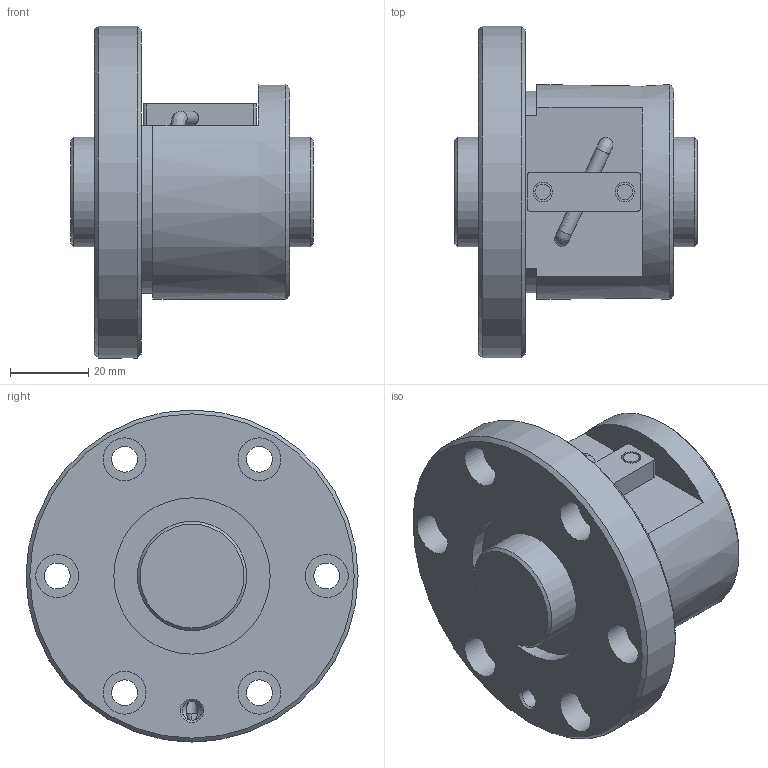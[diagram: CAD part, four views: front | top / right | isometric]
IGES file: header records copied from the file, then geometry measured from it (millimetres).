
Start section: Data from Parasolid IGES Translator 26.0.171, Copyright(c) 2006 Siemens PLM Software. All Rights Reserved.
Global section: file name: BNF2806V-2.5RRG1+62LC0_000_rev.igs; native system: By Siemens PLM Incorporated; preprocessor: XPlus GENERIC/IGES 26.0.171; author: Noname; organization: Noname; date: 20240806.073044; units: millimetre
Bounding box: 62 x 85 x 85 mm (x, y, z)
Surface area: 34196.4 mm2 (no closed solid volume)
Topology: 0 solids, 0 shells, 72 faces, 334 edges, 294 vertices
Faces by surface type: revolution 45, extrusion 27
